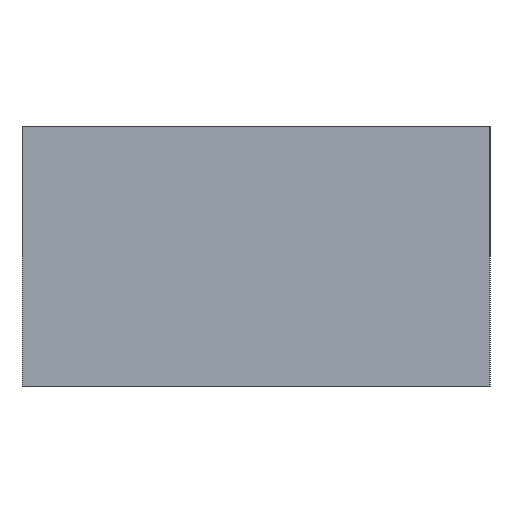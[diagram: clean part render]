
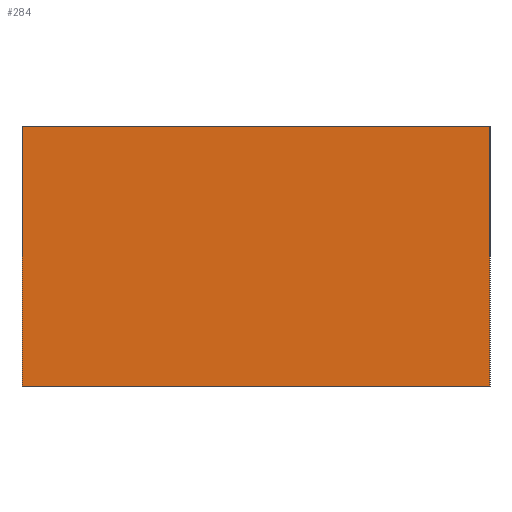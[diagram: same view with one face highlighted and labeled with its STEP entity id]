
A CAD part, left-side view. The second image highlights one B-rep face of the part: STEP entity #284.
In plain terms, the highlighted planar face has unit normal (-1, 0, 0).
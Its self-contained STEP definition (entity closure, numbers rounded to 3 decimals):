
#21 = EDGE_CURVE('',#22,#24,#26,.T.);
#22 = VERTEX_POINT('',#23);
#23 = CARTESIAN_POINT('',(120.,-78.413,135.));
#24 = VERTEX_POINT('',#25);
#25 = CARTESIAN_POINT('',(120.,-78.413,140.));
#26 = SURFACE_CURVE('',#27,(#31,#43),.PCURVE_S1.);
#27 = LINE('',#28,#29);
#28 = CARTESIAN_POINT('',(120.,-78.413,135.));
#29 = VECTOR('',#30,1.);
#30 = DIRECTION('',(0.,0.,1.));
#31 = PCURVE('',#32,#37);
#32 = PLANE('',#33);
#33 = AXIS2_PLACEMENT_3D('',#34,#35,#36);
#34 = CARTESIAN_POINT('',(120.,-78.413,135.));
#35 = DIRECTION('',(0.,1.,0.));
#36 = DIRECTION('',(1.,0.,0.));
#37 = DEFINITIONAL_REPRESENTATION('',(#38),#42);
#38 = LINE('',#39,#40);
#39 = CARTESIAN_POINT('',(0.,0.));
#40 = VECTOR('',#41,1.);
#41 = DIRECTION('',(0.,-1.));
#42 = ( GEOMETRIC_REPRESENTATION_CONTEXT(2) 
PARAMETRIC_REPRESENTATION_CONTEXT() REPRESENTATION_CONTEXT('2D SPACE',''
  ) );
#43 = PCURVE('',#44,#49);
#44 = PLANE('',#45);
#45 = AXIS2_PLACEMENT_3D('',#46,#47,#48);
#46 = CARTESIAN_POINT('',(120.,-87.413,135.));
#47 = DIRECTION('',(-1.,0.,0.));
#48 = DIRECTION('',(0.,1.,0.));
#49 = DEFINITIONAL_REPRESENTATION('',(#50),#54);
#50 = LINE('',#51,#52);
#51 = CARTESIAN_POINT('',(9.,0.));
#52 = VECTOR('',#53,1.);
#53 = DIRECTION('',(0.,-1.));
#54 = ( GEOMETRIC_REPRESENTATION_CONTEXT(2) 
PARAMETRIC_REPRESENTATION_CONTEXT() REPRESENTATION_CONTEXT('2D SPACE',''
  ) );
#72 = PLANE('',#73);
#73 = AXIS2_PLACEMENT_3D('',#74,#75,#76);
#74 = CARTESIAN_POINT('',(132.5,-82.913,140.));
#75 = DIRECTION('',(-0.,-0.,-1.));
#76 = DIRECTION('',(-1.,0.,0.));
#126 = PLANE('',#127);
#127 = AXIS2_PLACEMENT_3D('',#128,#129,#130);
#128 = CARTESIAN_POINT('',(132.5,-82.913,135.));
#129 = DIRECTION('',(-0.,-0.,-1.));
#130 = DIRECTION('',(-1.,0.,0.));
#181 = PLANE('',#182);
#182 = AXIS2_PLACEMENT_3D('',#183,#184,#185);
#183 = CARTESIAN_POINT('',(145.,-87.413,135.));
#184 = DIRECTION('',(0.,-1.,0.));
#185 = DIRECTION('',(-1.,0.,0.));
#219 = VERTEX_POINT('',#220);
#220 = CARTESIAN_POINT('',(120.,-87.413,140.));
#241 = EDGE_CURVE('',#242,#219,#244,.T.);
#242 = VERTEX_POINT('',#243);
#243 = CARTESIAN_POINT('',(120.,-87.413,135.));
#244 = SURFACE_CURVE('',#245,(#249,#256),.PCURVE_S1.);
#245 = LINE('',#246,#247);
#246 = CARTESIAN_POINT('',(120.,-87.413,135.));
#247 = VECTOR('',#248,1.);
#248 = DIRECTION('',(0.,0.,1.));
#249 = PCURVE('',#181,#250);
#250 = DEFINITIONAL_REPRESENTATION('',(#251),#255);
#251 = LINE('',#252,#253);
#252 = CARTESIAN_POINT('',(25.,0.));
#253 = VECTOR('',#254,1.);
#254 = DIRECTION('',(0.,-1.));
#255 = ( GEOMETRIC_REPRESENTATION_CONTEXT(2) 
PARAMETRIC_REPRESENTATION_CONTEXT() REPRESENTATION_CONTEXT('2D SPACE',''
  ) );
#256 = PCURVE('',#44,#257);
#257 = DEFINITIONAL_REPRESENTATION('',(#258),#262);
#258 = LINE('',#259,#260);
#259 = CARTESIAN_POINT('',(0.,0.));
#260 = VECTOR('',#261,1.);
#261 = DIRECTION('',(0.,-1.));
#262 = ( GEOMETRIC_REPRESENTATION_CONTEXT(2) 
PARAMETRIC_REPRESENTATION_CONTEXT() REPRESENTATION_CONTEXT('2D SPACE',''
  ) );
#284 = ADVANCED_FACE('',(#285),#44,.T.);
#285 = FACE_BOUND('',#286,.T.);
#286 = EDGE_LOOP('',(#287,#288,#309,#310));
#287 = ORIENTED_EDGE('',*,*,#241,.T.);
#288 = ORIENTED_EDGE('',*,*,#289,.T.);
#289 = EDGE_CURVE('',#219,#24,#290,.T.);
#290 = SURFACE_CURVE('',#291,(#295,#302),.PCURVE_S1.);
#291 = LINE('',#292,#293);
#292 = CARTESIAN_POINT('',(120.,-87.413,140.));
#293 = VECTOR('',#294,1.);
#294 = DIRECTION('',(0.,1.,0.));
#295 = PCURVE('',#44,#296);
#296 = DEFINITIONAL_REPRESENTATION('',(#297),#301);
#297 = LINE('',#298,#299);
#298 = CARTESIAN_POINT('',(0.,-5.));
#299 = VECTOR('',#300,1.);
#300 = DIRECTION('',(1.,0.));
#301 = ( GEOMETRIC_REPRESENTATION_CONTEXT(2) 
PARAMETRIC_REPRESENTATION_CONTEXT() REPRESENTATION_CONTEXT('2D SPACE',''
  ) );
#302 = PCURVE('',#72,#303);
#303 = DEFINITIONAL_REPRESENTATION('',(#304),#308);
#304 = LINE('',#305,#306);
#305 = CARTESIAN_POINT('',(12.5,-4.5));
#306 = VECTOR('',#307,1.);
#307 = DIRECTION('',(0.,1.));
#308 = ( GEOMETRIC_REPRESENTATION_CONTEXT(2) 
PARAMETRIC_REPRESENTATION_CONTEXT() REPRESENTATION_CONTEXT('2D SPACE',''
  ) );
#309 = ORIENTED_EDGE('',*,*,#21,.F.);
#310 = ORIENTED_EDGE('',*,*,#311,.F.);
#311 = EDGE_CURVE('',#242,#22,#312,.T.);
#312 = SURFACE_CURVE('',#313,(#317,#324),.PCURVE_S1.);
#313 = LINE('',#314,#315);
#314 = CARTESIAN_POINT('',(120.,-87.413,135.));
#315 = VECTOR('',#316,1.);
#316 = DIRECTION('',(0.,1.,0.));
#317 = PCURVE('',#44,#318);
#318 = DEFINITIONAL_REPRESENTATION('',(#319),#323);
#319 = LINE('',#320,#321);
#320 = CARTESIAN_POINT('',(0.,0.));
#321 = VECTOR('',#322,1.);
#322 = DIRECTION('',(1.,0.));
#323 = ( GEOMETRIC_REPRESENTATION_CONTEXT(2) 
PARAMETRIC_REPRESENTATION_CONTEXT() REPRESENTATION_CONTEXT('2D SPACE',''
  ) );
#324 = PCURVE('',#126,#325);
#325 = DEFINITIONAL_REPRESENTATION('',(#326),#330);
#326 = LINE('',#327,#328);
#327 = CARTESIAN_POINT('',(12.5,-4.5));
#328 = VECTOR('',#329,1.);
#329 = DIRECTION('',(0.,1.));
#330 = ( GEOMETRIC_REPRESENTATION_CONTEXT(2) 
PARAMETRIC_REPRESENTATION_CONTEXT() REPRESENTATION_CONTEXT('2D SPACE',''
  ) );
